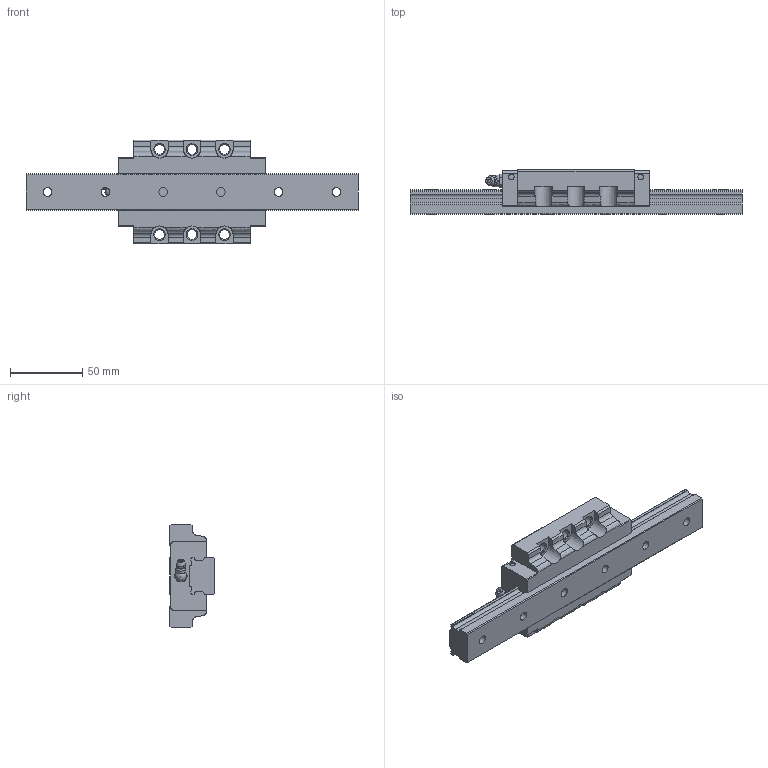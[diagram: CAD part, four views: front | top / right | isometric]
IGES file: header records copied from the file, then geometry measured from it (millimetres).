
Start section: Data from Parasolid IGES Translator 26.0.171, Copyright(c) 2006 Siemens PLM Software. All Rights Reserved.
Global section: file name: SVR25LC1SS-230L_G15_0_B-M6F_64_0_0_0_1.igs; native system: By Siemens PLM Incorporated; preprocessor: XPlus GENERIC/IGES 26.0.171; author: Noname; organization: Noname; date: 20240517.072322; units: millimetre
Bounding box: 230 x 31 x 72 mm (x, y, z)
Surface area: 49373 mm2 (no closed solid volume)
Topology: 0 solids, 0 shells, 250 faces, 1356 edges, 1292 vertices
Faces by surface type: extrusion 134, revolution 116
